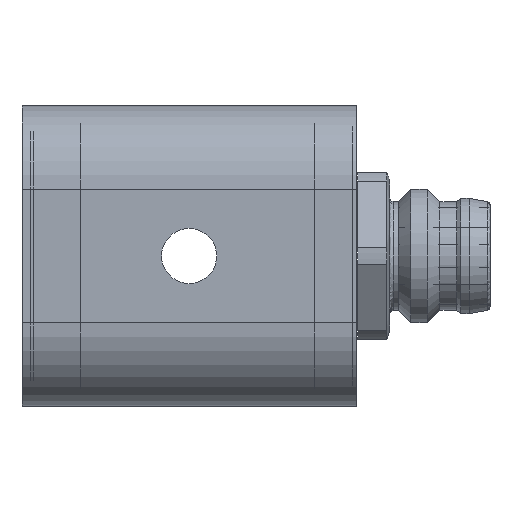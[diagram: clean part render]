
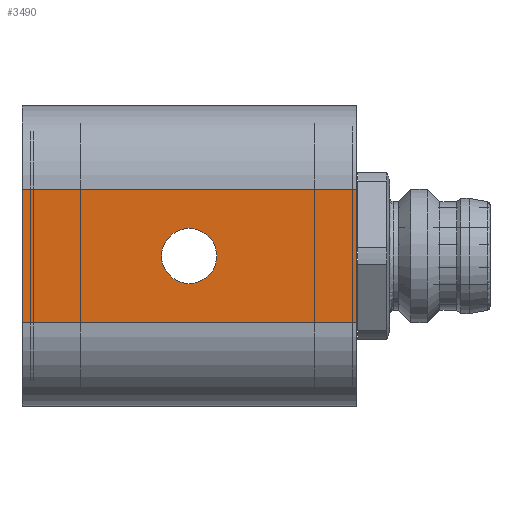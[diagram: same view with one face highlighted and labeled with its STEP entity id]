
A CAD part, left-side view. The second image highlights one B-rep face of the part: STEP entity #3490.
In plain terms, the highlighted planar face has unit normal (-1, 0, 0).
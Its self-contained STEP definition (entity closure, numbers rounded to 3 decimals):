
#157 = CARTESIAN_POINT ( 'NONE',  ( -205., 18.3, 9. ) ) ;
#190 = DIRECTION ( 'NONE',  ( 0., 0., -1. ) ) ;
#192 = VERTEX_POINT ( 'NONE', #2459 ) ;
#201 = VECTOR ( 'NONE', #1851, 1000. ) ;
#220 = VECTOR ( 'NONE', #3691, 1000. ) ;
#263 = EDGE_CURVE ( 'NONE', #2776, #192, #4068, .T. ) ;
#274 = LINE ( 'NONE', #4038, #220 ) ;
#358 = VERTEX_POINT ( 'NONE', #4152 ) ;
#510 = DIRECTION ( 'NONE',  ( 1., 0., 0. ) ) ;
#611 = EDGE_LOOP ( 'NONE', ( #1090 ) ) ;
#638 = DIRECTION ( 'NONE',  ( 0., -1., 0. ) ) ;
#640 = EDGE_CURVE ( 'NONE', #3267, #358, #3811, .T. ) ;
#758 = VERTEX_POINT ( 'NONE', #2336 ) ;
#810 = ORIENTED_EDGE ( 'NONE', *, *, #3809, .F. ) ;
#856 = LINE ( 'NONE', #3810, #201 ) ;
#1090 = ORIENTED_EDGE ( 'NONE', *, *, #3976, .F. ) ;
#1144 = AXIS2_PLACEMENT_3D ( 'NONE', #3447, #2427, #3731 ) ;
#1172 = DIRECTION ( 'NONE',  ( 0., 1., 0. ) ) ;
#1204 = EDGE_CURVE ( 'NONE', #2776, #358, #856, .T. ) ;
#1231 = CARTESIAN_POINT ( 'NONE',  ( -205., -1.7, 4. ) ) ;
#1466 = VECTOR ( 'NONE', #1172, 1000. ) ;
#1488 = CARTESIAN_POINT ( 'NONE',  ( -205., 18.3, 4. ) ) ;
#1621 = AXIS2_PLACEMENT_3D ( 'NONE', #157, #510, #190 ) ;
#1851 = DIRECTION ( 'NONE',  ( 0., 0., -1. ) ) ;
#2077 = EDGE_LOOP ( 'NONE', ( #810, #2580, #2507, #3832 ) ) ;
#2254 = CIRCLE ( 'NONE', #1144, 1.65 ) ;
#2271 = CARTESIAN_POINT ( 'NONE',  ( -205., 18.3, -4. ) ) ;
#2336 = CARTESIAN_POINT ( 'NONE',  ( -205., 8.3, 1.65 ) ) ;
#2427 = DIRECTION ( 'NONE',  ( -1., 0., 0. ) ) ;
#2438 = VECTOR ( 'NONE', #638, 1000. ) ;
#2459 = CARTESIAN_POINT ( 'NONE',  ( -205., 18.3, 4. ) ) ;
#2507 = ORIENTED_EDGE ( 'NONE', *, *, #1204, .F. ) ;
#2580 = ORIENTED_EDGE ( 'NONE', *, *, #640, .T. ) ;
#2776 = VERTEX_POINT ( 'NONE', #1231 ) ;
#3232 = FACE_OUTER_BOUND ( 'NONE', #2077, .T. ) ;
#3267 = VERTEX_POINT ( 'NONE', #3736 ) ;
#3447 = CARTESIAN_POINT ( 'NONE',  ( -205., 8.3, 0. ) ) ;
#3490 = ADVANCED_FACE ( 'NONE', ( #3544, #3232 ), #3794, .F. ) ;
#3544 = FACE_BOUND ( 'NONE', #611, .T. ) ;
#3691 = DIRECTION ( 'NONE',  ( 0., 0., 1. ) ) ;
#3731 = DIRECTION ( 'NONE',  ( 0., 0., 1. ) ) ;
#3736 = CARTESIAN_POINT ( 'NONE',  ( -205., 18.3, -4. ) ) ;
#3794 = PLANE ( 'NONE',  #1621 ) ;
#3809 = EDGE_CURVE ( 'NONE', #3267, #192, #274, .T. ) ;
#3810 = CARTESIAN_POINT ( 'NONE',  ( -205., -1.7, -4. ) ) ;
#3811 = LINE ( 'NONE', #2271, #2438 ) ;
#3832 = ORIENTED_EDGE ( 'NONE', *, *, #263, .T. ) ;
#3976 = EDGE_CURVE ( 'NONE', #758, #758, #2254, .T. ) ;
#4038 = CARTESIAN_POINT ( 'NONE',  ( -205., 18.3, 9. ) ) ;
#4068 = LINE ( 'NONE', #1488, #1466 ) ;
#4152 = CARTESIAN_POINT ( 'NONE',  ( -205., -1.7, -4. ) ) ;
